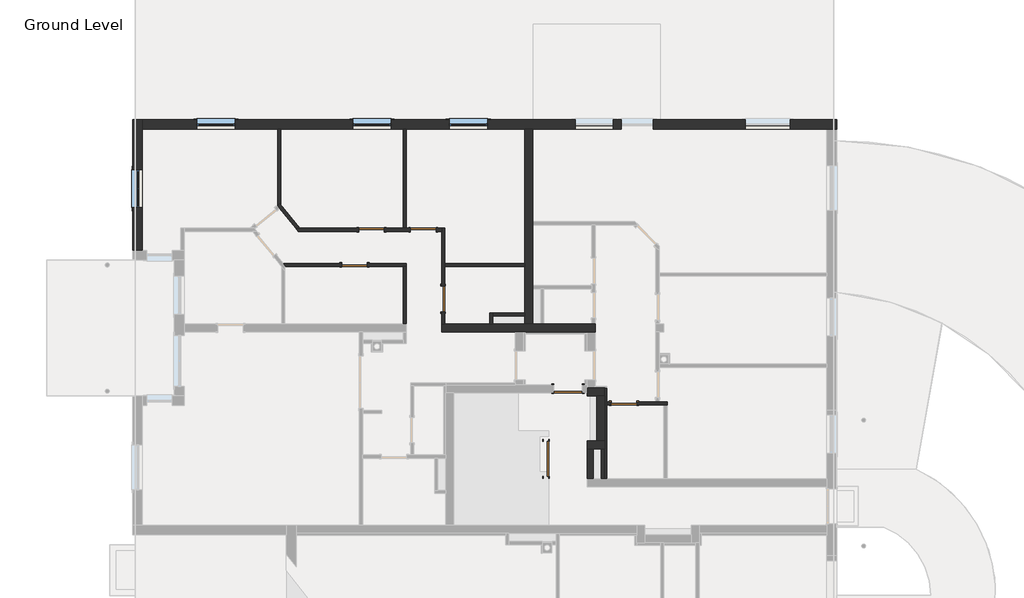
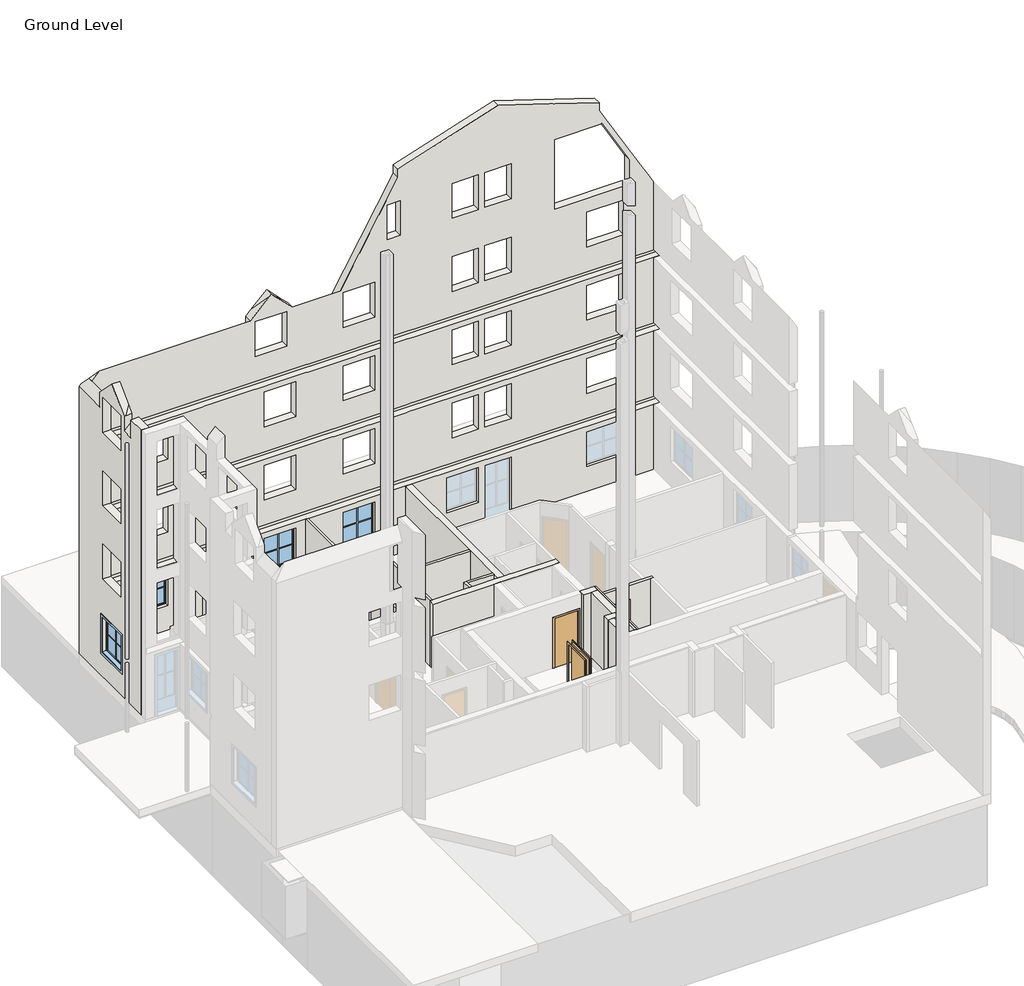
# One storey, part 4 of 6: 21 walls, 7 doors, 4 windows.
"""IFC4 building model written with IfcOpenShell, lengths in millimetres."""

from ifc_helpers import new_model, si_unit, origin, origin_with_axes, place, context, project, spatial, polyline, outline, extrude, faceted_brep, transform, mapped, element, save
from components import standard_door_sd_1100x2000_1d62120a, standard_door_sd_800x2000_6a16926d, standard_door_sd_800x2000_80f4ff25, standard_door_sd_900x2000_4224ae2a, standard_window_with_mullions_80486b60

model = new_model("IFC4")

# Units and contexts
model_context = context("Model", 3, world=origin())
ifc_project = project(units=[si_unit("LENGTHUNIT", "METRE", prefix="MILLI")], contexts=[model_context])

# Site, building, storey
site = spatial("IfcSite", under=ifc_project)
building = spatial("IfcBuilding", under=site)
storey = spatial("IfcBuildingStorey", under=building, Name="Ground Level", Elevation=0.0)

# Doors
placement = place(None, origin())
standard_door_sd_1100x2000_shape = standard_door_sd_1100x2000_1d62120a(model_context)
element("IfcDoor", 1, ObjectType="Standard Door : SD 1100x2000", at=placement, inside=storey, context=model_context, shape_type="MappedRepresentation", body=[
    mapped(standard_door_sd_1100x2000_shape, transform((277.8037835, 250.1290541, 0.0), x_axis=(0.0, -1.0, 0.0), y_axis=(1.0, 0.0, 0.0), z_axis=(0.0, 0.0, 1.0))),
])
standard_door_sd_800x2000_shape = standard_door_sd_800x2000_6a16926d(model_context)
element("IfcDoor", 2, ObjectType="Standard Door : SD 800x2000", at=placement, inside=storey, context=model_context, shape_type="MappedRepresentation", body=[
    mapped(standard_door_sd_800x2000_shape, transform((-5174.2767874, 7417.6290541, 0.0), x_axis=(-1.0, 0.0, 0.0), y_axis=(0.0, -1.0, 0.0), z_axis=(0.0, 0.0, 1.0))),
])
element("IfcDoor", 3, ObjectType="Standard Door : SD 800x2000", at=placement, inside=storey, context=model_context, shape_type="MappedRepresentation", body=[
    mapped(standard_door_sd_800x2000_shape, transform((2717.8037831, 1986.2076978, 0.0), x_axis=(1.0, 0.0, 0.0), y_axis=(0.0, 1.0, 0.0), z_axis=(0.0, 0.0, 1.0))),
])
standard_door_sd_800x2000_2_shape = standard_door_sd_800x2000_80f4ff25(model_context)
element("IfcDoor", 4, ObjectType="Standard Door : SD 800x2000", at=placement, inside=storey, context=model_context, shape_type="MappedRepresentation", body=[
    mapped(standard_door_sd_800x2000_2_shape, transform((-2937.1962165, 5253.568109, 0.0), x_axis=(0.0, -0.9999999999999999, 0.0), y_axis=(0.9999999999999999, 0.0, 0.0), z_axis=(0.0, 0.0, 1.0))),
])
element("IfcDoor", 5, ObjectType="Standard Door : SD 800x2000", at=placement, inside=storey, context=model_context, shape_type="MappedRepresentation", body=[
    mapped(standard_door_sd_800x2000_2_shape, transform((-3559.5684451, 7417.6290541, 0.0), x_axis=(1.0, 0.0, 0.0), y_axis=(0.0, 1.0, 0.0), z_axis=(0.0, 0.0, 1.0))),
])
element("IfcDoor", 6, ObjectType="Standard Door : SD 800x2000", at=placement, inside=storey, context=model_context, shape_type="MappedRepresentation", body=[
    mapped(standard_door_sd_800x2000_2_shape, transform((-5704.3517258, 6317.6290541, 0.0), x_axis=(-1.0, 0.0, 0.0), y_axis=(0.0, -1.0, 0.0), z_axis=(0.0, 0.0, 1.0))),
])
standard_door_sd_900x2000_shape = standard_door_sd_900x2000_4224ae2a(model_context)
element("IfcDoor", 7, ObjectType="Standard Door : SD 900x2000", at=placement, inside=storey, context=model_context, shape_type="MappedRepresentation", body=[
    mapped(standard_door_sd_900x2000_shape, transform((967.0786115, 2442.6290541, 0.0), x_axis=(-1.0, 0.0, 0.0), y_axis=(0.0, -1.0, 0.0), z_axis=(0.0, 0.0, 1.0))),
])

# Walls
element("IfcWall", 8, ObjectType="Exterior - 250+50mm", at=placement, inside=storey, context=model_context, shape_type="Brep", body=[
    faceted_brep([(-12337.1962165, 6767.6290541, 0.0), (-12337.1962165, 10567.6290541, 0.0), (-12337.1962165, 10867.6290541, 0.0), (-12337.1962165, 10867.6290541, 10831.9372055), (-12337.1962165, 10741.730441, 11050.0), (-12337.1962165, 10567.6290541, 11050.0), (-12337.1962165, 9505.3927399, 11050.0), (-12337.1962165, 9505.3927399, 11350.0), (-12337.1962165, 9296.2758574, 11559.1168825), (-12337.1962165, 8705.3927399, 12150.0), (-12337.1962165, 8114.5096223, 11559.1168825), (-12337.1962165, 7905.3927399, 11350.0), (-12337.1962165, 7905.3927399, 11050.0), (-12337.1962165, 7447.6290541, 11050.0), (-12337.1962165, 7447.6290541, 11480.0), (-12337.1962165, 6767.6290541, 11480.0), (-12337.1962165, 6767.6290541, 8850.0), (-12337.1962165, 10817.6290541, 8850.0), (-12337.1962165, 10817.6290541, 8530.0), (-12337.1962165, 6767.6290541, 8530.0), (-12337.1962165, 6767.6290541, 5900.0), (-12337.1962165, 10817.6290541, 5900.0), (-12337.1962165, 10817.6290541, 5580.0), (-12337.1962165, 6767.6290541, 5580.0), (-12337.1962165, 6767.6290541, 2950.0), (-12337.1962165, 10817.6290541, 2950.0), (-12337.1962165, 10817.6290541, 2630.0), (-12337.1962165, 6767.6290541, 2630.0), (-12337.1962165, 8105.3927399, 9850.0), (-12337.1962165, 8105.3927399, 11250.0), (-12337.1962165, 9305.3927399, 11250.0), (-12337.1962165, 9305.3927399, 9850.0), (-12337.1962165, 8105.3927399, 6900.0), (-12337.1962165, 8105.3927399, 8300.0), (-12337.1962165, 9305.3927399, 8300.0), (-12337.1962165, 9305.3927399, 6900.0), (-12337.1962165, 8105.3927399, 3950.0), (-12337.1962165, 8105.3927399, 5350.0), (-12337.1962165, 9305.3927399, 5350.0), (-12337.1962165, 9305.3927399, 3950.0), (-12337.1962165, 8105.3927399, 1000.0), (-12337.1962165, 8105.3927399, 2400.0), (-12337.1962165, 9305.3927399, 2400.0), (-12337.1962165, 9305.3927399, 1000.0), (-12637.1962165, 10867.6290541, 0.0), (-12637.1962165, 6767.6290541, 0.0), (-12637.1962165, 6767.6290541, 11480.0), (-12637.1962165, 7447.6290541, 11480.0), (-12637.1962165, 7447.6290541, 10750.0), (-12637.1962165, 7905.3927399, 10750.0), (-12637.1962165, 7905.3927399, 11350.0), (-12637.1962165, 8705.3927399, 12150.0), (-12637.1962165, 9505.3927399, 11350.0), (-12637.1962165, 9505.3927399, 10750.0), (-12637.1962165, 10867.6290541, 10750.0), (-12637.1962165, 8105.3927399, 11250.0), (-12637.1962165, 8105.3927399, 9850.0), (-12637.1962165, 9305.3927399, 9850.0), (-12637.1962165, 9305.3927399, 11250.0), (-12637.1962165, 8105.3927399, 8300.0), (-12637.1962165, 8105.3927399, 6900.0), (-12637.1962165, 9305.3927399, 6900.0), (-12637.1962165, 9305.3927399, 8300.0), (-12637.1962165, 8105.3927399, 5350.0), (-12637.1962165, 8105.3927399, 3950.0), (-12637.1962165, 9305.3927399, 3950.0), (-12637.1962165, 9305.3927399, 5350.0), (-12637.1962165, 8105.3927399, 2400.0), (-12637.1962165, 8105.3927399, 1000.0), (-12637.1962165, 9305.3927399, 1000.0), (-12637.1962165, 9305.3927399, 2400.0), (-12587.1962165, 6767.6290541, 2630.0), (-12587.1962165, 6767.6290541, 2950.0), (-12587.1962165, 6767.6290541, 5580.0), (-12587.1962165, 6767.6290541, 5900.0), (-12587.1962165, 6767.6290541, 8530.0), (-12587.1962165, 6767.6290541, 8850.0), (-12555.2590111, 10867.6290541, 10831.9372055), (-12546.313099, 7905.3927399, 11350.0), (-12546.313099, 9505.3927399, 11350.0), (-12587.1962165, 10817.6290541, 2630.0), (-12587.1962165, 10817.6290541, 2950.0), (-12587.1962165, 10817.6290541, 5580.0), (-12587.1962165, 10817.6290541, 5900.0), (-12587.1962165, 10817.6290541, 8530.0), (-12587.1962165, 10817.6290541, 8850.0)], [[[0, 1, 2, 3, 4, 5, 6, 7, 8, 9, 10, 11, 12, 13, 14, 15, 16, 17, 18, 19, 20, 21, 22, 23, 24, 25, 26, 27], [28, 29, 30, 31], [32, 33, 34, 35], [36, 37, 38, 39], [40, 41, 42, 43]], [[44, 45, 46, 47, 48, 49, 50, 51, 52, 53, 54], [55, 56, 57, 58], [59, 60, 61, 62], [63, 64, 65, 66], [67, 68, 69, 70]], [[46, 45, 0, 27, 71, 72, 24, 23, 73, 74, 20, 19, 75, 76, 16, 15]], [[3, 2, 44, 54, 77]], [[2, 1, 0, 45, 44]], [[50, 49, 12, 11, 78]], [[7, 6, 53, 52, 79]], [[48, 47, 14, 13]], [[8, 7, 79]], [[11, 10, 78]], [[54, 53, 6, 5, 4, 77]], [[4, 3, 77]], [[48, 13, 12, 49]], [[50, 78, 10, 9, 51]], [[79, 52, 51, 9, 8]], [[15, 14, 47, 46]], [[28, 56, 55, 29]], [[29, 55, 58, 30]], [[30, 58, 57, 31]], [[56, 28, 31, 57]], [[33, 32, 60, 59]], [[34, 33, 59, 62]], [[35, 34, 62, 61]], [[32, 35, 61, 60]], [[37, 36, 64, 63]], [[38, 37, 63, 66]], [[39, 38, 66, 65]], [[36, 39, 65, 64]], [[41, 40, 68, 67]], [[42, 41, 67, 70]], [[43, 42, 70, 69]], [[40, 43, 69, 68]], [[26, 80, 71, 27]], [[72, 81, 25, 24]], [[80, 81, 72, 71]], [[81, 80, 26, 25]], [[22, 82, 73, 23]], [[74, 83, 21, 20]], [[82, 83, 74, 73]], [[83, 82, 22, 21]], [[18, 84, 75, 19]], [[76, 85, 17, 16]], [[84, 85, 76, 75]], [[85, 84, 18, 17]]]),
])
element("IfcWall", 9, ObjectType="Exterior - 250+50mm", at=placement, inside=storey, context=model_context, shape_type="Brep", body=[
    faceted_brep([(9362.8037835, 10567.6290541, 0.0), (9362.8037835, 10567.6290541, 11042.820323), (9062.8037835, 10567.6290541, 11562.4355653), (8757.3155772, 10567.6290541, 12091.5566597), (8557.3155772, 10567.6290541, 12437.9668213), (6985.5802922, 10567.6290541, 15160.2921908), (6985.5802922, 10567.6290541, 15495.936781), (5302.8037835, 10567.6290541, 16042.7040131), (5102.8037835, 10567.6290541, 16107.6879523), (3156.9978058, 10567.6290541, 16739.9186395), (-137.1962165, 10567.6290541, 15669.5701184), (-387.1962165, 10567.6290541, 15588.3401944), (-671.5846805, 10567.6290541, 15495.936781), (-671.5846805, 10567.6290541, 15154.4631818), (-2867.1962165, 10567.6290541, 11351.5524478), (-4700.2469102, 10567.6290541, 11351.5524478), (-4701.799358, 10567.6290541, 11351.5524478), (-5421.799358, 10567.6290541, 12071.5524478), (-5500.2469102, 10567.6290541, 12150.0), (-5578.6944624, 10567.6290541, 12071.5524478), (-6298.6944624, 10567.6290541, 11351.5524478), (-6300.2469102, 10567.6290541, 11351.5524478), (-12035.6437688, 10567.6290541, 11351.5524478), (-12337.1962165, 10567.6290541, 11050.0), (-12337.1962165, 10567.6290541, 8850.0), (-7587.1962165, 10567.6290541, 8850.0), (-7487.1962165, 10567.6290541, 8850.0), (-4187.1962165, 10567.6290541, 8850.0), (-4087.1962165, 10567.6290541, 8850.0), (-387.1962165, 10567.6290541, 8850.0), (-137.1962165, 10567.6290541, 8850.0), (-72.1962165, 10567.6290541, 8850.0), (3837.8037835, 10567.6290541, 8850.0), (3937.8037835, 10567.6290541, 8850.0), (9312.8037835, 10567.6290541, 8850.0), (9312.8037835, 10567.6290541, 8530.0), (-72.1962165, 10567.6290541, 8530.0), (-137.1962165, 10567.6290541, 8530.0), (-387.1962165, 10567.6290541, 8530.0), (-4087.1962165, 10567.6290541, 8530.0), (-4187.1962165, 10567.6290541, 8530.0), (-8028.1071844, 10567.6290541, 8530.0), (-8128.1071844, 10567.6290541, 8530.0), (-12337.1962165, 10567.6290541, 8530.0), (-12337.1962165, 10567.6290541, 5900.0), (-8128.1071844, 10567.6290541, 5900.0), (-8028.1071844, 10567.6290541, 5900.0), (-4187.1962165, 10567.6290541, 5900.0), (-4087.1962165, 10567.6290541, 5900.0), (-387.1962165, 10567.6290541, 5900.0), (-137.1962165, 10567.6290541, 5900.0), (-72.1962165, 10567.6290541, 5900.0), (9312.8037835, 10567.6290541, 5900.0), (9312.8037835, 10567.6290541, 5580.0), (-72.1962165, 10567.6290541, 5580.0), (-137.1962165, 10567.6290541, 5580.0), (-387.1962165, 10567.6290541, 5580.0), (-3087.1962165, 10567.6290541, 5580.0), (-3187.1962165, 10567.6290541, 5580.0), (-7587.1962165, 10567.6290541, 5580.0), (-7687.1962165, 10567.6290541, 5580.0), (-12337.1962165, 10567.6290541, 5580.0), (-12337.1962165, 10567.6290541, 2950.0), (-7687.1962165, 10567.6290541, 2950.0), (-7587.1962165, 10567.6290541, 2950.0), (-3187.1962165, 10567.6290541, 2950.0), (-3087.1962165, 10567.6290541, 2950.0), (-387.1962165, 10567.6290541, 2950.0), (-137.1962165, 10567.6290541, 2950.0), (-72.1962165, 10567.6290541, 2950.0), (9312.8037835, 10567.6290541, 2950.0), (9312.8037835, 10567.6290541, 2630.0), (-137.1962165, 10567.6290541, 2630.0), (-387.1962165, 10567.6290541, 2630.0), (-4087.1962165, 10567.6290541, 2630.0), (-4187.1962165, 10567.6290541, 2630.0), (-8012.6840058, 10567.6290541, 2630.0), (-8112.6840058, 10567.6290541, 2630.0), (-12337.1962165, 10567.6290541, 2630.0), (-12337.1962165, 10567.6290541, 0.0), (-8112.6840058, 10567.6290541, 0.0), (-8012.6840058, 10567.6290541, 0.0), (-4187.1962165, 10567.6290541, 0.0), (-4087.1962165, 10567.6290541, 0.0), (-387.1962165, 10567.6290541, 0.0), (-137.1962165, 10567.6290541, 0.0), (2637.8037835, 10567.6290541, 0.0), (2637.8037835, 10567.6290541, 2400.0), (3637.8037835, 10567.6290541, 2400.0), (3637.8037835, 10567.6290541, 0.0), (9062.8037835, 10567.6290541, 0.0), (8142.8037835, 10567.6290541, 11800.0), (5302.8037835, 10567.6290541, 11800.0), (5302.8037835, 10567.6290541, 14600.0), (7103.5732989, 10567.6290541, 14600.0), (8142.8037835, 10567.6290541, 12800.0), (-1087.1962165, 10567.6290541, 12800.0), (-1087.1962165, 10567.6290541, 14200.0), (-587.1962165, 10567.6290541, 14200.0), (-587.1962165, 10567.6290541, 12800.0), (2637.8037835, 10567.6290541, 12800.0), (2637.8037835, 10567.6290541, 14200.0), (3637.8037835, 10567.6290541, 14200.0), (3637.8037835, 10567.6290541, 12800.0), (1387.8037835, 10567.6290541, 12800.0), (1387.8037835, 10567.6290541, 14200.0), (2387.8037835, 10567.6290541, 14200.0), (2387.8037835, 10567.6290541, 12800.0), (2637.8037835, 10567.6290541, 9850.0), (2637.8037835, 10567.6290541, 11250.0), (3637.8037835, 10567.6290541, 11250.0), (3637.8037835, 10567.6290541, 9850.0), (1387.8037835, 10567.6290541, 9850.0), (1387.8037835, 10567.6290541, 11250.0), (2387.8037835, 10567.6290541, 11250.0), (2387.8037835, 10567.6290541, 9850.0), (6514.6462462, 10567.6290541, 9850.0), (6514.6462462, 10567.6290541, 11250.0), (7914.6462462, 10567.6290541, 11250.0), (7914.6462462, 10567.6290541, 9850.0), (-2748.3679777, 10567.6290541, 9850.0), (-2748.3679777, 10567.6290541, 11250.0), (-1548.3679777, 10567.6290541, 11250.0), (-1548.3679777, 10567.6290541, 9850.0), (-6100.2469102, 10567.6290541, 9850.0), (-6100.2469102, 10567.6290541, 11250.0), (-4900.2469102, 10567.6290541, 11250.0), (-4900.2469102, 10567.6290541, 9850.0), (2637.8037835, 10567.6290541, 6900.0), (2637.8037835, 10567.6290541, 8300.0), (3637.8037835, 10567.6290541, 8300.0), (3637.8037835, 10567.6290541, 6900.0), (1387.8037835, 10567.6290541, 6900.0), (1387.8037835, 10567.6290541, 8300.0), (2387.8037835, 10567.6290541, 8300.0), (2387.8037835, 10567.6290541, 6900.0), (6514.6462462, 10567.6290541, 6900.0), (6514.6462462, 10567.6290541, 8300.0), (7914.6462462, 10567.6290541, 8300.0), (7914.6462462, 10567.6290541, 6900.0), (-2748.3679777, 10567.6290541, 6900.0), (-2748.3679777, 10567.6290541, 8300.0), (-1548.3679777, 10567.6290541, 8300.0), (-1548.3679777, 10567.6290541, 6900.0), (-5760.5209693, 10567.6290541, 6900.0), (-5760.5209693, 10567.6290541, 8300.0), (-4560.5209693, 10567.6290541, 8300.0), (-4560.5209693, 10567.6290541, 6900.0), (-10642.4747669, 10567.6290541, 6900.0), (-10642.4747669, 10567.6290541, 8300.0), (-9442.4747669, 10567.6290541, 8300.0), (-9442.4747669, 10567.6290541, 6900.0), (2637.8037835, 10567.6290541, 3950.0), (2637.8037835, 10567.6290541, 5350.0), (3637.8037835, 10567.6290541, 5350.0), (3637.8037835, 10567.6290541, 3950.0), (1387.8037835, 10567.6290541, 3950.0), (1387.8037835, 10567.6290541, 5350.0), (2387.8037835, 10567.6290541, 5350.0), (2387.8037835, 10567.6290541, 3950.0), (6514.6462462, 10567.6290541, 3950.0), (6514.6462462, 10567.6290541, 5350.0), (7914.6462462, 10567.6290541, 5350.0), (7914.6462462, 10567.6290541, 3950.0), (-2748.3679777, 10567.6290541, 3950.0), (-2748.3679777, 10567.6290541, 5350.0), (-1548.3679777, 10567.6290541, 5350.0), (-1548.3679777, 10567.6290541, 3950.0), (-5760.5209693, 10567.6290541, 3950.0), (-5760.5209693, 10567.6290541, 5350.0), (-4560.5209693, 10567.6290541, 5350.0), (-4560.5209693, 10567.6290541, 3950.0), (-10642.4747669, 10567.6290541, 3950.0), (-10642.4747669, 10567.6290541, 5350.0), (-9442.4747669, 10567.6290541, 5350.0), (-9442.4747669, 10567.6290541, 3950.0), (1187.8037835, 10567.6290541, 1000.0), (1187.8037835, 10567.6290541, 2400.0), (2387.8037835, 10567.6290541, 2400.0), (2387.8037835, 10567.6290541, 1000.0), (6514.6462462, 10567.6290541, 1000.0), (6514.6462462, 10567.6290541, 2400.0), (7914.6462462, 10567.6290541, 2400.0), (7914.6462462, 10567.6290541, 1000.0), (-2748.3679777, 10567.6290541, 1000.0), (-2748.3679777, 10567.6290541, 2400.0), (-1548.3679777, 10567.6290541, 2400.0), (-1548.3679777, 10567.6290541, 1000.0), (-5760.5209693, 10567.6290541, 1000.0), (-5760.5209693, 10567.6290541, 2400.0), (-4560.5209693, 10567.6290541, 2400.0), (-4560.5209693, 10567.6290541, 1000.0), (-10642.4747669, 10567.6290541, 1000.0), (-10642.4747669, 10567.6290541, 2400.0), (-9442.4747669, 10567.6290541, 2400.0), (-9442.4747669, 10567.6290541, 1000.0), (-12337.1962165, 10867.6290541, 0.0), (-12337.1962165, 10867.6290541, 10831.9372055), (-6300.2469102, 10867.6290541, 10831.9372055), (-6300.2469102, 10867.6290541, 11350.0), (-6098.3097047, 10867.6290541, 11551.9372055), (-5500.2469102, 10867.6290541, 12150.0), (-4902.1841157, 10867.6290541, 11551.9372055), (-4700.2469102, 10867.6290541, 11350.0), (-4700.2469102, 10867.6290541, 10831.9372055), (-3167.1962165, 10867.6290541, 10831.9372055), (-671.5846805, 10867.6290541, 15154.4631818), (-671.5846805, 10867.6290541, 15495.936781), (3156.9978058, 10867.6290541, 16739.9186395), (6985.5802922, 10867.6290541, 15495.936781), (6985.5802922, 10867.6290541, 15160.2921908), (9362.8037835, 10867.6290541, 11042.820323), (9362.8037835, 10867.6290541, 0.0), (3637.8037835, 10867.6290541, 0.0), (3637.8037835, 10867.6290541, 2400.0), (2637.8037835, 10867.6290541, 2400.0), (2637.8037835, 10867.6290541, 0.0), (5302.8037835, 10867.6290541, 11800.0), (8142.8037835, 10867.6290541, 11800.0), (8142.8037835, 10867.6290541, 12800.0), (7103.5732989, 10867.6290541, 14600.0), (5302.8037835, 10867.6290541, 14600.0), (-1087.1962165, 10867.6290541, 14200.0), (-1087.1962165, 10867.6290541, 12800.0), (-587.1962165, 10867.6290541, 12800.0), (-587.1962165, 10867.6290541, 14200.0), (2637.8037835, 10867.6290541, 14200.0), (2637.8037835, 10867.6290541, 12800.0), (3637.8037835, 10867.6290541, 12800.0), (3637.8037835, 10867.6290541, 14200.0), (1387.8037835, 10867.6290541, 14200.0), (1387.8037835, 10867.6290541, 12800.0), (2387.8037835, 10867.6290541, 12800.0), (2387.8037835, 10867.6290541, 14200.0), (2637.8037835, 10867.6290541, 11250.0), (2637.8037835, 10867.6290541, 9850.0), (3637.8037835, 10867.6290541, 9850.0), (3637.8037835, 10867.6290541, 11250.0), (1387.8037835, 10867.6290541, 11250.0), (1387.8037835, 10867.6290541, 9850.0), (2387.8037835, 10867.6290541, 9850.0), (2387.8037835, 10867.6290541, 11250.0), (6514.6462462, 10867.6290541, 11250.0), (6514.6462462, 10867.6290541, 9850.0), (7914.6462462, 10867.6290541, 9850.0), (7914.6462462, 10867.6290541, 11250.0), (-2748.3679777, 10867.6290541, 11250.0), (-2748.3679777, 10867.6290541, 9850.0), (-1548.3679777, 10867.6290541, 9850.0), (-1548.3679777, 10867.6290541, 11250.0), (-6100.2469102, 10867.6290541, 11250.0), (-6100.2469102, 10867.6290541, 9850.0), (-4900.2469102, 10867.6290541, 9850.0), (-4900.2469102, 10867.6290541, 11250.0), (2637.8037835, 10867.6290541, 8300.0), (2637.8037835, 10867.6290541, 6900.0), (3637.8037835, 10867.6290541, 6900.0), (3637.8037835, 10867.6290541, 8300.0), (1387.8037835, 10867.6290541, 8300.0), (1387.8037835, 10867.6290541, 6900.0), (2387.8037835, 10867.6290541, 6900.0), (2387.8037835, 10867.6290541, 8300.0), (6514.6462462, 10867.6290541, 8300.0), (6514.6462462, 10867.6290541, 6900.0), (7914.6462462, 10867.6290541, 6900.0), (7914.6462462, 10867.6290541, 8300.0), (-2748.3679777, 10867.6290541, 8300.0), (-2748.3679777, 10867.6290541, 6900.0), (-1548.3679777, 10867.6290541, 6900.0), (-1548.3679777, 10867.6290541, 8300.0), (-5760.5209693, 10867.6290541, 8300.0), (-5760.5209693, 10867.6290541, 6900.0), (-4560.5209693, 10867.6290541, 6900.0), (-4560.5209693, 10867.6290541, 8300.0), (-10642.4747669, 10867.6290541, 8300.0), (-10642.4747669, 10867.6290541, 6900.0), (-9442.4747669, 10867.6290541, 6900.0), (-9442.4747669, 10867.6290541, 8300.0), (2637.8037835, 10867.6290541, 5350.0), (2637.8037835, 10867.6290541, 3950.0), (3637.8037835, 10867.6290541, 3950.0), (3637.8037835, 10867.6290541, 5350.0), (1387.8037835, 10867.6290541, 5350.0), (1387.8037835, 10867.6290541, 3950.0), (2387.8037835, 10867.6290541, 3950.0), (2387.8037835, 10867.6290541, 5350.0), (6514.6462462, 10867.6290541, 5350.0), (6514.6462462, 10867.6290541, 3950.0), (7914.6462462, 10867.6290541, 3950.0), (7914.6462462, 10867.6290541, 5350.0), (-2748.3679777, 10867.6290541, 5350.0), (-2748.3679777, 10867.6290541, 3950.0), (-1548.3679777, 10867.6290541, 3950.0), (-1548.3679777, 10867.6290541, 5350.0), (-5760.5209693, 10867.6290541, 5350.0), (-5760.5209693, 10867.6290541, 3950.0), (-4560.5209693, 10867.6290541, 3950.0), (-4560.5209693, 10867.6290541, 5350.0), (-10642.4747669, 10867.6290541, 5350.0), (-10642.4747669, 10867.6290541, 3950.0), (-9442.4747669, 10867.6290541, 3950.0), (-9442.4747669, 10867.6290541, 5350.0), (1187.8037835, 10867.6290541, 2400.0), (1187.8037835, 10867.6290541, 1000.0), (2387.8037835, 10867.6290541, 1000.0), (2387.8037835, 10867.6290541, 2400.0), (6514.6462462, 10867.6290541, 2400.0), (6514.6462462, 10867.6290541, 1000.0), (7914.6462462, 10867.6290541, 1000.0), (7914.6462462, 10867.6290541, 2400.0), (-2748.3679777, 10867.6290541, 2400.0), (-2748.3679777, 10867.6290541, 1000.0), (-1548.3679777, 10867.6290541, 1000.0), (-1548.3679777, 10867.6290541, 2400.0), (-5760.5209693, 10867.6290541, 2400.0), (-5760.5209693, 10867.6290541, 1000.0), (-4560.5209693, 10867.6290541, 1000.0), (-4560.5209693, 10867.6290541, 2400.0), (-10642.4747669, 10867.6290541, 2400.0), (-10642.4747669, 10867.6290541, 1000.0), (-9442.4747669, 10867.6290541, 1000.0), (-9442.4747669, 10867.6290541, 2400.0), (-12337.1962165, 10817.6290541, 2630.0), (-12337.1962165, 10817.6290541, 2950.0), (-12337.1962165, 10817.6290541, 5580.0), (-12337.1962165, 10817.6290541, 5900.0), (-12337.1962165, 10817.6290541, 8530.0), (-12337.1962165, 10817.6290541, 8850.0), (-12337.1962165, 10741.730441, 11050.0), (-6300.2469102, 10568.5253602, 11350.0), (-4700.2469102, 10568.5253602, 11350.0), (9312.8037835, 10817.6290541, 2630.0), (9312.8037835, 10817.6290541, 2950.0), (9312.8037835, 10817.6290541, 5580.0), (9312.8037835, 10817.6290541, 5900.0), (9312.8037835, 10817.6290541, 8530.0), (9312.8037835, 10817.6290541, 8850.0)], [[[0, 1, 2, 3, 4, 5, 6, 7, 8, 9, 10, 11, 12, 13, 14, 15, 16, 17, 18, 19, 20, 21, 22, 23, 24, 25, 26, 27, 28, 29, 30, 31, 32, 33, 34, 35, 36, 37, 38, 39, 40, 41, 42, 43, 44, 45, 46, 47, 48, 49, 50, 51, 52, 53, 54, 55, 56, 57, 58, 59, 60, 61, 62, 63, 64, 65, 66, 67, 68, 69, 70, 71, 72, 73, 74, 75, 76, 77, 78, 79, 80, 81, 82, 83, 84, 85, 86, 87, 88, 89, 90], [91, 92, 93, 94, 95], [96, 97, 98, 99], [100, 101, 102, 103], [104, 105, 106, 107], [108, 109, 110, 111], [112, 113, 114, 115], [116, 117, 118, 119], [120, 121, 122, 123], [124, 125, 126, 127], [128, 129, 130, 131], [132, 133, 134, 135], [136, 137, 138, 139], [140, 141, 142, 143], [144, 145, 146, 147], [148, 149, 150, 151], [152, 153, 154, 155], [156, 157, 158, 159], [160, 161, 162, 163], [164, 165, 166, 167], [168, 169, 170, 171], [172, 173, 174, 175], [176, 177, 178, 179], [180, 181, 182, 183], [184, 185, 186, 187], [188, 189, 190, 191], [192, 193, 194, 195]], [[196, 197, 198, 199, 200, 201, 202, 203, 204, 205, 206, 207, 208, 209, 210, 211, 212, 213, 214, 215, 216], [217, 218, 219, 220, 221], [222, 223, 224, 225], [226, 227, 228, 229], [230, 231, 232, 233], [234, 235, 236, 237], [238, 239, 240, 241], [242, 243, 244, 245], [246, 247, 248, 249], [250, 251, 252, 253], [254, 255, 256, 257], [258, 259, 260, 261], [262, 263, 264, 265], [266, 267, 268, 269], [270, 271, 272, 273], [274, 275, 276, 277], [278, 279, 280, 281], [282, 283, 284, 285], [286, 287, 288, 289], [290, 291, 292, 293], [294, 295, 296, 297], [298, 299, 300, 301], [302, 303, 304, 305], [306, 307, 308, 309], [310, 311, 312, 313], [314, 315, 316, 317], [318, 319, 320, 321]], [[197, 196, 79, 78, 322, 323, 62, 61, 324, 325, 44, 43, 326, 327, 24, 23, 328]], [[1, 0, 212, 211]], [[212, 0, 90, 89, 213]], [[79, 196, 216, 86, 85, 84, 83, 82, 81, 80]], [[92, 91, 218, 217]], [[94, 93, 221, 220]], [[91, 95, 219, 218]], [[93, 92, 217, 221]], [[95, 94, 220, 219]], [[210, 209, 6, 5]], [[199, 198, 329]], [[204, 203, 330]], [[206, 13, 12, 207]], [[5, 4, 3, 2, 1, 211, 210]], [[23, 22, 328]], [[16, 15, 14, 205, 204, 330]], [[203, 202, 17, 16, 330]], [[200, 199, 329, 20, 19]], [[13, 206, 205, 14]], [[198, 197, 328, 22, 21, 20, 329]], [[207, 12, 11, 10, 9, 208]], [[6, 209, 208, 9, 8, 7]], [[19, 18, 201, 200]], [[18, 17, 202, 201]], [[87, 86, 216, 215]], [[88, 87, 215, 214]], [[89, 88, 214, 213]], [[96, 223, 222, 97]], [[97, 222, 225, 98]], [[98, 225, 224, 99]], [[223, 96, 99, 224]], [[101, 100, 227, 226]], [[102, 101, 226, 229]], [[103, 102, 229, 228]], [[100, 103, 228, 227]], [[105, 104, 231, 230]], [[106, 105, 230, 233]], [[107, 106, 233, 232]], [[104, 107, 232, 231]], [[109, 108, 235, 234]], [[110, 109, 234, 237]], [[111, 110, 237, 236]], [[108, 111, 236, 235]], [[113, 112, 239, 238]], [[114, 113, 238, 241]], [[115, 114, 241, 240]], [[112, 115, 240, 239]], [[117, 116, 243, 242]], [[118, 117, 242, 245]], [[119, 118, 245, 244]], [[116, 119, 244, 243]], [[121, 120, 247, 246]], [[122, 121, 246, 249]], [[123, 122, 249, 248]], [[120, 123, 248, 247]], [[124, 251, 250, 125]], [[125, 250, 253, 126]], [[126, 253, 252, 127]], [[251, 124, 127, 252]], [[129, 128, 255, 254]], [[130, 129, 254, 257]], [[131, 130, 257, 256]], [[128, 131, 256, 255]], [[133, 132, 259, 258]], [[134, 133, 258, 261]], [[135, 134, 261, 260]], [[132, 135, 260, 259]], [[137, 136, 263, 262]], [[138, 137, 262, 265]], [[139, 138, 265, 264]], [[136, 139, 264, 263]], [[141, 140, 267, 266]], [[142, 141, 266, 269]], [[143, 142, 269, 268]], [[140, 143, 268, 267]], [[145, 144, 271, 270]], [[146, 145, 270, 273]], [[147, 146, 273, 272]], [[144, 147, 272, 271]], [[149, 148, 275, 274]], [[150, 149, 274, 277]], [[151, 150, 277, 276]], [[148, 151, 276, 275]], [[153, 152, 279, 278]], [[154, 153, 278, 281]], [[155, 154, 281, 280]], [[152, 155, 280, 279]], [[157, 156, 283, 282]], [[158, 157, 282, 285]], [[159, 158, 285, 284]], [[156, 159, 284, 283]], [[161, 160, 287, 286]], [[162, 161, 286, 289]], [[163, 162, 289, 288]], [[160, 163, 288, 287]], [[165, 164, 291, 290]], [[166, 165, 290, 293]], [[167, 166, 293, 292]], [[164, 167, 292, 291]], [[169, 168, 295, 294]], [[170, 169, 294, 297]], [[171, 170, 297, 296]], [[168, 171, 296, 295]], [[173, 172, 299, 298]], [[174, 173, 298, 301]], [[175, 174, 301, 300]], [[172, 175, 300, 299]], [[177, 176, 303, 302]], [[178, 177, 302, 305]], [[179, 178, 305, 304]], [[176, 179, 304, 303]], [[181, 180, 307, 306]], [[182, 181, 306, 309]], [[183, 182, 309, 308]], [[180, 183, 308, 307]], [[185, 184, 311, 310]], [[186, 185, 310, 313]], [[187, 186, 313, 312]], [[184, 187, 312, 311]], [[189, 188, 315, 314]], [[190, 189, 314, 317]], [[191, 190, 317, 316]], [[188, 191, 316, 315]], [[193, 192, 319, 318]], [[194, 193, 318, 321]], [[195, 194, 321, 320]], [[192, 195, 320, 319]], [[331, 322, 78, 77, 76, 75, 74, 73, 72, 71]], [[332, 70, 69, 68, 67, 66, 65, 64, 63, 62, 323]], [[332, 331, 71, 70]], [[331, 332, 323, 322]], [[333, 324, 61, 60, 59, 58, 57, 56, 55, 54, 53]], [[334, 52, 51, 50, 49, 48, 47, 46, 45, 44, 325]], [[334, 333, 53, 52]], [[333, 334, 325, 324]], [[335, 326, 43, 42, 41, 40, 39, 38, 37, 36, 35]], [[336, 34, 33, 32, 31, 30, 29, 28, 27, 26, 25, 24, 327]], [[336, 335, 35, 34]], [[335, 336, 327, 326]]]),
])
element("IfcWall", 10, ObjectType="Interior - 100mm", at=placement, inside=storey, context=model_context, shape_type="Brep", body=[
    faceted_brep([(-7942.2621811, 6367.6290541, 0.0), (-6104.3517258, 6367.6290541, 0.0), (-6104.3517258, 6267.6290541, 0.0), (-7860.6747851, 6267.6290541, 0.0), (-7889.734861, 6303.2473938, 0.0), (-5304.3517258, 6367.6290541, 0.0), (-4087.1962165, 6367.6290541, 0.0), (-4087.1962165, 6267.6290541, 0.0), (-4187.1962165, 6267.6290541, 0.0), (-5304.3517258, 6267.6290541, 0.0), (-6104.3517258, 6267.6290541, 2000.0), (-5304.3517258, 6267.6290541, 2000.0), (-4087.1962165, 6267.6290541, 2630.0), (-4187.1962165, 6267.6290541, 2630.0), (-7860.6747851, 6267.6290541, 2630.0), (-6104.3517258, 6367.6290541, 2000.0), (-7942.2621811, 6367.6290541, 2630.0), (-4087.1962165, 6367.6290541, 2630.0), (-5304.3517258, 6367.6290541, 2000.0), (-7889.734861, 6303.2473938, 2630.0)], [[[0, 1, 2, 3, 4]], [[5, 6, 7, 8, 9]], [[3, 2, 10, 11, 9, 8, 7, 12, 13, 14]], [[15, 1, 0, 16, 17, 6, 5, 18]], [[3, 14, 19, 16, 0, 4]], [[12, 7, 6, 17]], [[14, 13, 12, 17, 16, 19]], [[10, 2, 1, 15]], [[11, 10, 15, 18]], [[9, 11, 18, 5]]]),
])
element("IfcWall", 11, ObjectType="Interior - 100mm", at=placement, inside=storey, context=model_context, shape_type="SweptSolid", body=[
    extrude(outline(polyline([(-4187.1962165, 4467.6290541), (-4187.1962165, 6267.6290541), (-4087.1962165, 6267.6290541), (-4087.1962165, 4467.6290541), (-4187.1962165, 4467.6290541)])), origin_with_axes(), (0.0, 0.0, 1.0), 2630.0),
])
element("IfcWall", 12, ObjectType="Interior - 100mm", at=placement, inside=storey, context=model_context, shape_type="Brep", body=[
    faceted_brep([(-2987.1962165, 4467.6290541, 0.0), (-2987.1962165, 4853.568109, 0.0), (-2887.1962165, 4853.568109, 0.0), (-2887.1962165, 4467.6290541, 0.0), (-2987.1962165, 5653.568109, 0.0), (-2987.1962165, 7367.6290541, 0.0), (-2987.1962165, 7467.6290541, 0.0), (-2887.1962165, 7467.6290541, 0.0), (-2887.1962165, 6367.6290541, 0.0), (-2887.1962165, 6267.6290541, 0.0), (-2887.1962165, 5653.568109, 0.0), (-2887.1962165, 4853.568109, 2000.0), (-2887.1962165, 5653.568109, 2000.0), (-2887.1962165, 7467.6290541, 2630.0), (-2887.1962165, 6367.6290541, 2630.0), (-2887.1962165, 6267.6290541, 2630.0), (-2887.1962165, 4467.6290541, 2630.0), (-2987.1962165, 4853.568109, 2000.0), (-2987.1962165, 4467.6290541, 2630.0), (-2987.1962165, 7367.6290541, 2630.0), (-2987.1962165, 7467.6290541, 2630.0), (-2987.1962165, 5653.568109, 2000.0)], [[[0, 1, 2, 3]], [[4, 5, 6, 7, 8, 9, 10]], [[3, 2, 11, 12, 10, 9, 8, 7, 13, 14, 15, 16]], [[17, 1, 0, 18, 19, 20, 6, 5, 4, 21]], [[3, 16, 18, 0]], [[13, 7, 6, 20]], [[16, 15, 14, 13, 20, 19, 18]], [[11, 2, 1, 17]], [[12, 11, 17, 21]], [[10, 12, 21, 4]]]),
])
element("IfcWall", 13, ObjectType="Interior - 100mm", at=placement, inside=storey, context=model_context, shape_type="Brep", body=[
    faceted_brep([(-2987.1962165, 7367.6290541, 0.0), (-3159.5684451, 7367.6290541, 0.0), (-3159.5684451, 7467.6290541, 0.0), (-2987.1962165, 7467.6290541, 0.0), (-7549.1227781, 7467.6290541, 0.0), (-7420.0627022, 7467.6290541, 0.0), (-5574.2767874, 7467.6290541, 0.0), (-5574.2767874, 7367.6290541, 0.0), (-7467.5353821, 7367.6290541, 0.0), (-4774.2767874, 7467.6290541, 0.0), (-4187.1962165, 7467.6290541, 0.0), (-4087.1962165, 7467.6290541, 0.0), (-3959.5684451, 7467.6290541, 0.0), (-3959.5684451, 7367.6290541, 0.0), (-4774.2767874, 7367.6290541, 0.0), (-5574.2767874, 7467.6290541, 2000.0), (-7549.1227781, 7467.6290541, 2630.0), (-7420.0627022, 7467.6290541, 2630.0), (-4187.1962165, 7467.6290541, 2630.0), (-4087.1962165, 7467.6290541, 2630.0), (-2987.1962165, 7467.6290541, 2630.0), (-3159.5684451, 7467.6290541, 2000.0), (-3959.5684451, 7467.6290541, 2000.0), (-4774.2767874, 7467.6290541, 2000.0), (-5574.2767874, 7367.6290541, 2000.0), (-4774.2767874, 7367.6290541, 2000.0), (-3959.5684451, 7367.6290541, 2000.0), (-3159.5684451, 7367.6290541, 2000.0), (-2987.1962165, 7367.6290541, 2630.0), (-7467.5353821, 7367.6290541, 2630.0)], [[[0, 1, 2, 3]], [[4, 5, 6, 7, 8]], [[9, 10, 11, 12, 13, 14]], [[15, 6, 5, 4, 16, 17, 18, 19, 20, 3, 2, 21, 22, 12, 11, 10, 9, 23]], [[8, 7, 24, 25, 14, 13, 26, 27, 1, 0, 28, 29]], [[3, 20, 28, 0]], [[16, 4, 8, 29]], [[20, 19, 18, 17, 16, 29, 28]], [[21, 2, 1, 27]], [[22, 21, 27, 26]], [[12, 22, 26, 13]], [[24, 7, 6, 15]], [[25, 24, 15, 23]], [[14, 25, 23, 9]]]),
])
element("IfcWall", 14, ObjectType="Interior - 100mm", at=placement, inside=storey, context=model_context, shape_type="Brep", body=[
    faceted_brep([(-7420.0627022, 7467.6290541, 0.0), (-8012.6840058, 8193.9928466, 0.0), (-8043.9240526, 8232.2831321, 0.0), (-8043.9240526, 8232.2831321, 2630.0), (-8012.6840058, 8193.9928466, 2630.0), (-7420.0627022, 7467.6290541, 2630.0), (-7549.1227781, 7467.6290541, 0.0), (-7549.1227781, 7467.6290541, 2630.0), (-8058.190745, 8091.5832334, 2630.0), (-8121.4073481, 8169.0665289, 2630.0), (-8121.4073481, 8169.0665289, 0.0), (-8058.190745, 8091.5832334, 0.0), (-8112.6840058, 8176.1836768, 0.0), (-8112.6840058, 8176.1836768, 2630.0)], [[[0, 1, 2, 3, 4, 5]], [[6, 7, 8, 9, 10, 11]], [[2, 1, 0, 6, 11, 10, 12]], [[3, 2, 12, 10, 9, 13]], [[0, 5, 7, 6]], [[5, 4, 3, 13, 9, 8, 7]]]),
])
element("IfcWall", 15, ObjectType="Interior - 100mm", at=placement, inside=storey, context=model_context, shape_type="SweptSolid", body=[
    extrude(outline(polyline([(-8012.6840058, 10567.6290541), (-8012.6840058, 8193.9928466), (-8043.9240526, 8232.2831321), (-8112.6840058, 8176.1836768), (-8112.6840058, 10567.6290541), (-8012.6840058, 10567.6290541)])), origin_with_axes(), (0.0, 0.0, 1.0), 2630.0),
])
element("IfcWall", 16, ObjectType="Interior - 100mm", at=placement, inside=storey, context=model_context, shape_type="SweptSolid", body=[
    extrude(outline(polyline([(-4087.1962165, 10567.6290541), (-4087.1962165, 7467.6290541), (-4187.1962165, 7467.6290541), (-4187.1962165, 10567.6290541), (-4087.1962165, 10567.6290541)])), origin_with_axes(), (0.0, 0.0, 1.0), 2630.0),
])
element("IfcWall", 17, ObjectType="Interior - 100mm", at=placement, inside=storey, context=model_context, shape_type="SweptSolid", body=[
    extrude(outline(polyline([(-387.1962165, 6267.6290541), (-2887.1962165, 6267.6290541), (-2887.1962165, 6367.6290541), (-387.1962165, 6367.6290541), (-387.1962165, 6267.6290541)])), origin_with_axes(), (0.0, 0.0, 1.0), 2630.0),
])
element("IfcWall", 18, ObjectType="Interior - 100mm", at=placement, inside=storey, context=model_context, shape_type="Brep", body=[
    faceted_brep([(-1387.1962165, 4467.6290541, 0.0), (-1387.1962165, 4717.6290541, 0.0), (-1387.1962165, 4817.6290541, 0.0), (-1387.1962165, 4817.6290541, 2630.0), (-1387.1962165, 4717.6290541, 2630.0), (-1387.1962165, 4467.6290541, 2630.0), (-1487.1962165, 4467.6290541, 0.0), (-1487.1962165, 4467.6290541, 2630.0), (-1487.1962165, 4817.6290541, 2630.0), (-1487.1962165, 4817.6290541, 0.0)], [[[0, 1, 2, 3, 4, 5]], [[6, 7, 8, 9]], [[2, 1, 0, 6, 9]], [[3, 2, 9, 8]], [[0, 5, 7, 6]], [[5, 4, 3, 8, 7]]]),
])
element("IfcWall", 19, ObjectType="Interior - 100mm", at=placement, inside=storey, context=model_context, shape_type="Brep", body=[
    faceted_brep([(-1387.1962165, 4717.6290541, 0.0), (-387.1962165, 4717.6290541, 0.0), (-387.1962165, 4717.6290541, 2630.0), (-1287.1962165, 4717.6290541, 2630.0), (-1387.1962165, 4717.6290541, 2630.0), (-1387.1962165, 4817.6290541, 0.0), (-1387.1962165, 4817.6290541, 2630.0), (-387.1962165, 4817.6290541, 2630.0), (-387.1962165, 4817.6290541, 0.0)], [[[0, 1, 2, 3, 4]], [[5, 6, 7, 8]], [[1, 0, 5, 8]], [[0, 4, 6, 5]], [[2, 1, 8, 7]], [[4, 3, 2, 7, 6]]]),
])
element("IfcWall", 20, ObjectType="Interior - 100mm", at=placement, inside=storey, context=model_context, shape_type="Brep", body=[
    faceted_brep([(4062.8037835, 1936.2076978, 0.0), (3962.8037835, 1936.2076978, 0.0), (3117.8037831, 1936.2076978, 0.0), (3117.8037831, 2036.2076978, 0.0), (3712.8037835, 2036.2076978, 0.0), (3812.8037835, 2036.2076978, 0.0), (4062.8037835, 2036.2076978, 0.0), (2317.8037831, 1936.2076978, 0.0), (2177.8037835, 1936.2076978, 0.0), (2177.8037835, 2036.2076978, 0.0), (2317.8037831, 2036.2076978, 0.0), (3117.8037831, 1936.2076978, 2000.0), (4062.8037835, 1936.2076978, 2630.0), (3962.8037835, 1936.2076978, 2630.0), (2177.8037835, 1936.2076978, 2630.0), (2317.8037831, 1936.2076978, 2000.0), (3117.8037831, 2036.2076978, 2000.0), (2317.8037831, 2036.2076978, 2000.0), (2177.8037835, 2036.2076978, 2630.0), (3712.8037835, 2036.2076978, 2630.0), (3812.8037835, 2036.2076978, 2630.0), (4062.8037835, 2036.2076978, 2630.0)], [[[0, 1, 2, 3, 4, 5, 6]], [[7, 8, 9, 10]], [[11, 2, 1, 0, 12, 13, 14, 8, 7, 15]], [[6, 5, 4, 3, 16, 17, 10, 9, 18, 19, 20, 21]], [[8, 14, 18, 9]], [[12, 0, 6, 21]], [[14, 13, 12, 21, 20, 19, 18]], [[16, 3, 2, 11]], [[17, 16, 11, 15]], [[10, 17, 15, 7]]]),
])
element("IfcWall", 21, ObjectType="Interior - 100mm", at=placement, inside=storey, context=model_context, shape_type="SweptSolid", body=[
    extrude(outline(polyline([(2012.8037835, -382.3709459), (2012.8037835, 567.6290541), (2112.8037835, 567.6290541), (2112.8037835, -382.3709459), (2012.8037835, -382.3709459)])), origin_with_axes(), (0.0, 0.0, 1.0), 2630.0),
])
element("IfcWall", 22, ObjectType="Interior - 200mm", at=placement, inside=storey, context=model_context, shape_type="SweptSolid", body=[
    extrude(outline(polyline([(1562.8088399, -382.3709459), (1562.8088399, 567.6290541), (1762.8088399, 567.6290541), (1762.8088399, -382.3709459), (1562.8088399, -382.3709459)])), origin_with_axes(), (0.0, 0.0, 1.0), 2630.0),
])
element("IfcWall", 23, ObjectType="Interior - 250mm", at=placement, inside=storey, context=model_context, shape_type="Brep", body=[
    faceted_brep([(1812.8037835, 4217.6290541, 0.0), (1562.8037835, 4217.6290541, 0.0), (-372.1962165, 4217.6290541, 0.0), (-437.1962165, 4217.6290541, 0.0), (-687.1962165, 4217.6290541, 0.0), (-2987.1962165, 4217.6290541, 0.0), (-2987.1962165, 4467.6290541, 0.0), (-2887.1962165, 4467.6290541, 0.0), (-1487.1962165, 4467.6290541, 0.0), (-1387.1962165, 4467.6290541, 0.0), (-387.1962165, 4467.6290541, 0.0), (-137.1962165, 4467.6290541, 0.0), (112.8037835, 4467.6290541, 0.0), (212.8037835, 4467.6290541, 0.0), (1712.8037835, 4467.6290541, 0.0), (1812.8037835, 4467.6290541, 0.0), (1812.8037835, 4217.6290541, 2630.0), (1562.8037835, 4217.6290541, 2630.0), (-372.1962165, 4217.6290541, 2630.0), (-437.1962165, 4217.6290541, 2630.0), (-687.1962165, 4217.6290541, 2630.0), (-2987.1962165, 4217.6290541, 2630.0), (-2987.1962165, 4467.6290541, 2630.0), (-2887.1962165, 4467.6290541, 2630.0), (-1487.1962165, 4467.6290541, 2630.0), (-1387.1962165, 4467.6290541, 2630.0), (-1287.1962165, 4467.6290541, 2630.0), (-387.1962165, 4467.6290541, 2630.0), (-137.1962165, 4467.6290541, 2630.0), (112.8037835, 4467.6290541, 2630.0), (212.8037835, 4467.6290541, 2630.0), (1712.8037835, 4467.6290541, 2630.0), (1812.8037835, 4467.6290541, 2630.0)], [[[0, 1, 2, 3, 4, 5, 6, 7, 8, 9, 10, 11, 12, 13, 14, 15]], [[5, 4, 3, 2, 1, 0, 16, 17, 18, 19, 20, 21]], [[6, 22, 23, 24, 25, 26, 27, 28, 29, 30, 31, 32, 15, 14, 13, 12, 11, 10, 9, 8, 7]], [[16, 0, 15, 32]], [[5, 21, 22, 6]], [[21, 20, 19, 18, 17, 16, 32, 31, 30, 29, 28, 27, 26, 25, 24, 23, 22]]]),
])
element("IfcWall", 24, ObjectType="Interior - 250mm", at=placement, inside=storey, context=model_context, shape_type="SweptSolid", body=[
    extrude(outline(polyline([(2112.8037835, 2217.6290541), (2112.8037835, 817.6290541), (1862.8037835, 817.6290541), (1862.8037835, 2217.6290541), (2112.8037835, 2217.6290541)])), origin_with_axes(), (0.0, 0.0, 1.0), 2630.0),
])
element("IfcWall", 25, ObjectType="Interior - 250mm", at=placement, inside=storey, context=model_context, shape_type="Brep", body=[
    faceted_brep([(2112.8037835, 2467.6290541, 0.0), (1812.8037835, 2467.6290541, 0.0), (1562.8037835, 2467.6290541, 0.0), (1562.8037835, 2467.6290541, 2630.0), (1812.8037835, 2467.6290541, 2630.0), (2112.8037835, 2467.6290541, 2630.0), (2112.8037835, 2217.6290541, 0.0), (2112.8037835, 2217.6290541, 2630.0), (1862.8037835, 2217.6290541, 2630.0), (1562.8037835, 2217.6290541, 2630.0), (1562.8037835, 2217.6290541, 0.0), (1862.8037835, 2217.6290541, 0.0), (1562.8037835, 2317.6290541, 0.0), (1562.8037835, 2317.6290541, 2630.0)], [[[0, 1, 2, 3, 4, 5]], [[6, 7, 8, 9, 10, 11]], [[2, 1, 0, 6, 11, 10, 12]], [[3, 2, 12, 10, 9, 13]], [[0, 5, 7, 6]], [[5, 4, 3, 13, 9, 8, 7]]]),
])
element("IfcWall", 26, ObjectType="Interior - 250mm", at=placement, inside=storey, context=model_context, shape_type="Brep", body=[
    faceted_brep([(-387.1962165, 10567.6290541, 0.0), (-387.1962165, 6367.6290541, 0.0), (-387.1962165, 6267.6290541, 0.0), (-387.1962165, 4817.6290541, 0.0), (-387.1962165, 4717.6290541, 0.0), (-387.1962165, 4467.6290541, 0.0), (-387.1962165, 4467.6290541, 2630.0), (-387.1962165, 4717.6290541, 2630.0), (-387.1962165, 4817.6290541, 2630.0), (-387.1962165, 6267.6290541, 2630.0), (-387.1962165, 6367.6290541, 2630.0), (-387.1962165, 10567.6290541, 2630.0), (-137.1962165, 10567.6290541, 0.0), (-137.1962165, 10567.6290541, 2630.0), (-137.1962165, 7667.6290541, 2630.0), (-137.1962165, 7567.6290541, 2630.0), (-137.1962165, 5667.6290541, 2630.0), (-137.1962165, 5567.6290541, 2630.0), (-137.1962165, 4467.6290541, 2630.0), (-137.1962165, 4467.6290541, 0.0), (-137.1962165, 5567.6290541, 0.0), (-137.1962165, 5667.6290541, 0.0), (-137.1962165, 7567.6290541, 0.0), (-137.1962165, 7667.6290541, 0.0)], [[[0, 1, 2, 3, 4, 5, 6, 7, 8, 9, 10, 11]], [[12, 13, 14, 15, 16, 17, 18, 19, 20, 21, 22, 23]], [[5, 4, 3, 2, 1, 0, 12, 23, 22, 21, 20, 19]], [[0, 11, 13, 12]], [[6, 5, 19, 18]], [[11, 10, 9, 8, 7, 6, 18, 17, 16, 15, 14, 13]]]),
])
element("IfcWall", 27, ObjectType="Interior - 250mm", at=placement, inside=storey, context=model_context, shape_type="Brep", body=[
    faceted_brep([(2112.8037835, 817.6290541, 0.0), (1862.8037835, 817.6290541, 0.0), (1562.8088399, 817.6290541, 0.0), (1562.8088399, 817.6290541, 2630.0), (1862.8037835, 817.6290541, 2630.0), (2112.8037835, 817.6290541, 2630.0), (2112.8037835, 567.6290541, 0.0), (2112.8037835, 567.6290541, 2630.0), (2012.8037835, 567.6290541, 2630.0), (1762.8087381, 567.6290541, 2630.0), (1562.8088399, 567.6290541, 2630.0), (1562.8088399, 567.6290541, 0.0), (1762.8088399, 567.6290541, 0.0), (2012.8037835, 567.6290541, 0.0)], [[[0, 1, 2, 3, 4, 5]], [[6, 7, 8, 9, 10, 11, 12, 13]], [[2, 1, 0, 6, 13, 12, 11]], [[0, 5, 7, 6]], [[3, 2, 11, 10]], [[5, 4, 3, 10, 9, 8, 7]]]),
])
element("IfcWall", 28, ObjectType="Interior - 65mm", at=placement, inside=storey, context=model_context, shape_type="Brep", body=[
    faceted_brep([(2112.8037835, 2457.6290541, 0.0), (2112.8037835, -382.3709459, 0.0), (2112.8037835, -382.3709459, 2630.0), (2112.8037835, 2457.6290541, 2630.0), (2177.8037835, 2457.6290541, 0.0), (2177.8037835, 2457.6290541, 2630.0), (2177.8037835, 2036.2076978, 2630.0), (2177.8037835, 1936.2076978, 2630.0), (2177.8037835, -382.3709459, 2630.0), (2177.8037835, -382.3709459, 0.0), (2177.8037835, 1936.2076978, 0.0), (2177.8037835, 2036.2076978, 0.0)], [[[0, 1, 2, 3]], [[4, 5, 6, 7, 8, 9, 10, 11]], [[1, 0, 4, 11, 10, 9]], [[0, 3, 5, 4]], [[2, 1, 9, 8]], [[3, 2, 8, 7, 6, 5]]]),
])

# Windows
standard_window_with_mullions_shape = standard_window_with_mullions_80486b60(model_context)
element("IfcWindow", 29, ObjectType="Standard Window with mullions : 1200/1400", at=placement, inside=storey, context=model_context, shape_type="MappedRepresentation", body=[
    mapped(standard_window_with_mullions_shape, transform((-12487.1962165, 8705.3927399, 0.0), x_axis=(0.0, 1.0, 0.0), y_axis=(-1.0, 0.0, 0.0), z_axis=(0.0, 0.0, 1.0))),
])
element("IfcWindow", 30, ObjectType="Standard Window with mullions : 1200/1400", at=placement, inside=storey, context=model_context, shape_type="MappedRepresentation", body=[
    mapped(standard_window_with_mullions_shape, transform((-10042.4747669, 10717.6290541, 0.0), x_axis=(1.0, 0.0, 0.0), y_axis=(0.0, 1.0, 0.0), z_axis=(0.0, 0.0, 1.0))),
])
element("IfcWindow", 31, ObjectType="Standard Window with mullions : 1200/1400", at=placement, inside=storey, context=model_context, shape_type="MappedRepresentation", body=[
    mapped(standard_window_with_mullions_shape, transform((-5160.5209693, 10717.6290541, 0.0), x_axis=(1.0, 0.0, 0.0), y_axis=(0.0, 1.0, 0.0), z_axis=(0.0, 0.0, 1.0))),
])
element("IfcWindow", 32, ObjectType="Standard Window with mullions : 1200/1400", at=placement, inside=storey, context=model_context, shape_type="MappedRepresentation", body=[
    mapped(standard_window_with_mullions_shape, transform((-2148.3679777, 10717.6290541, 0.0), x_axis=(1.0, 0.0, 0.0), y_axis=(0.0, 1.0, 0.0), z_axis=(0.0, 0.0, 1.0))),
])

save(model, "model.ifc")
